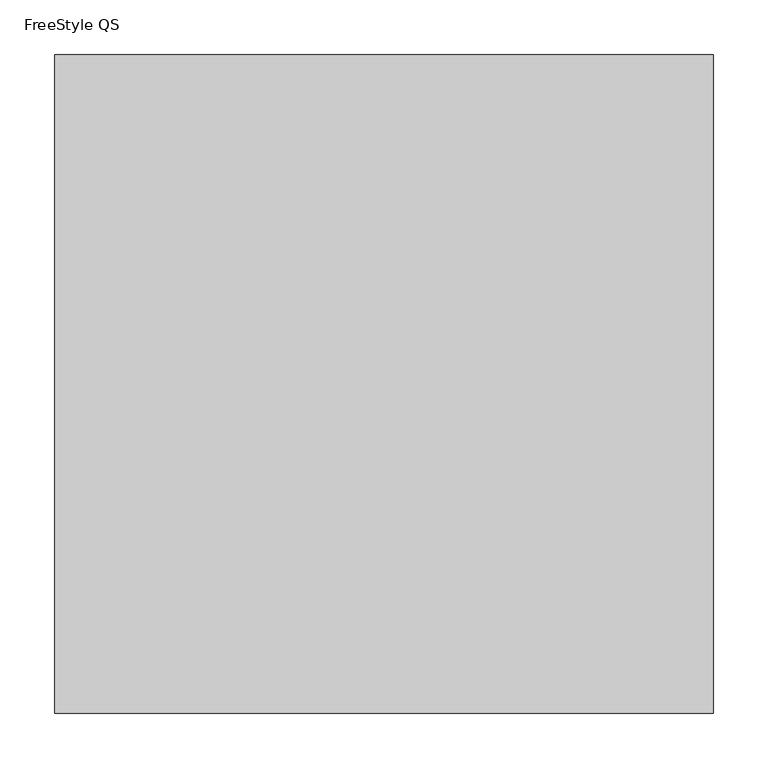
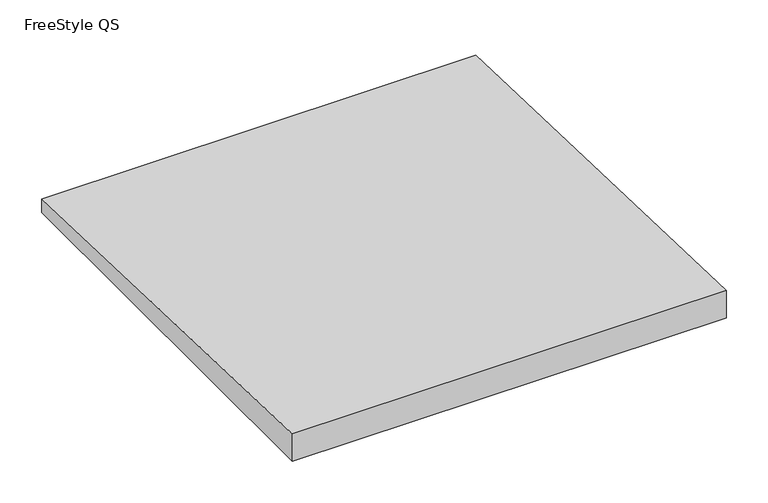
"""IFC4 building model written with IfcOpenShell, lengths in millimetres: proxy geometry, OWA FreeStyle wall absorber : FreeStyle QS."""

from ifc_helpers import new_model, si_unit, frame, origin, place, context, project, spatial, polyline, outline, extrude, source, transform, mapped, element, save


def freestyle_qs_1a5b652e(model_context):
    return source(origin(), model_context, "Body", "SweptSolid", [
        extrude(outline(polyline([(300.0, 20.0), (300.0, 0.0), (-300.0, 0.0), (-300.0, 40.0), (300.0, 20.0)])), frame((-733.5, 0.0, 0.0), z_axis=(1.0, 0.0, 0.0), x_axis=(0.0, 1.0, 0.0)), (0.0, 0.0, 1.0), 600.0),
    ])


if __name__ == "__main__":
    model = new_model("IFC4")
    model_context = context("Model", 3, world=origin())
    ifc_project = project(units=[si_unit("LENGTHUNIT", "METRE", prefix="MILLI")], contexts=[model_context])
    site = spatial("IfcSite", under=ifc_project)
    building = spatial("IfcBuilding", under=site)
    placement = place(None, origin())
    freestyle_qs_shape = freestyle_qs_1a5b652e(model_context)
    element("IfcBuildingElementProxy", 1, Name="OWA FreeStyle wall absorber : FreeStyle QS", ObjectType="OWA FreeStyle wall absorber : FreeStyle QS", at=placement, inside=building, context=model_context, shape_type="MappedRepresentation", body=[
        mapped(freestyle_qs_shape, transform((0.0, 0.0, 0.0), x_axis=(1.0, 0.0, 0.0), y_axis=(0.0, 1.0, 0.0), z_axis=(0.0, 0.0, 1.0))),
    ])
    save(model, "model.ifc")
